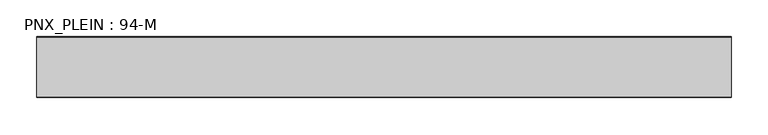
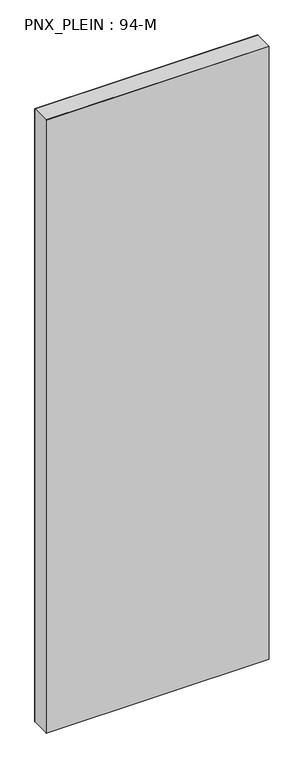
"""IFC4 building model written with IfcOpenShell, lengths in millimetres: plate geometry, PNX_PLEIN : 94-M."""

from ifc_helpers import new_model, si_unit, origin, origin_with_axes, place, context, project, spatial, polyline, outline, extrude, source, transform, mapped, element, save


def pnx_plein_94_m_255e5a5e(model_context):
    return source(origin(), model_context, "Body", "SweptSolid", [
        extrude(outline(polyline([(471.55, -40.5), (-471.55, -40.5), (-471.55, 40.5), (471.55, 40.5), (471.55, -40.5)])), origin_with_axes(), (0.0, 0.0, 1.0), 2739.0),
        extrude(outline(polyline([(471.55, -41.5), (-471.55, -41.5), (-471.55, -40.5), (471.55, -40.5), (471.55, -41.5)])), origin_with_axes(), (0.0, 0.0, 1.0), 2739.0),
        extrude(outline(polyline([(471.55, 40.5), (-471.55, 40.5), (-471.55, 41.5), (471.55, 41.5), (471.55, 40.5)])), origin_with_axes(), (0.0, 0.0, 1.0), 2739.0),
    ])


if __name__ == "__main__":
    model = new_model("IFC4")
    model_context = context("Model", 3, world=origin())
    ifc_project = project(units=[si_unit("LENGTHUNIT", "METRE", prefix="MILLI")], contexts=[model_context])
    site = spatial("IfcSite", under=ifc_project)
    building = spatial("IfcBuilding", under=site)
    placement = place(None, origin())
    pnx_plein_94_m_shape = pnx_plein_94_m_255e5a5e(model_context)
    element("IfcPlate", 1, ObjectType="PNX_PLEIN : 94-M", at=placement, inside=building, context=model_context, shape_type="MappedRepresentation", body=[
        mapped(pnx_plein_94_m_shape, transform((0.0, 0.0, 0.0), x_axis=(1.0, 0.0, 0.0), y_axis=(0.0, 1.0, 0.0), z_axis=(0.0, 0.0, 1.0))),
    ])
    save(model, "model.ifc")
